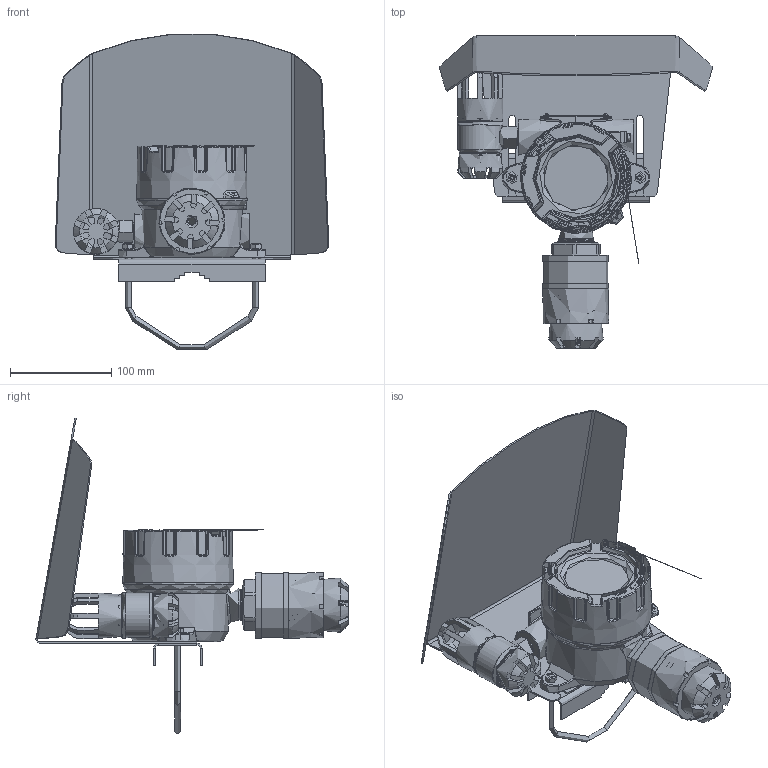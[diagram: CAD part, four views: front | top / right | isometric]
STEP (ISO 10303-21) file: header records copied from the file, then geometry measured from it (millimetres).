
FILE_DESCRIPTION(('STEP AP214'), '1');
FILE_NAME('ÄÃÑ Ýðèñ-210_Êîðïóñ', '', ('UNSPECIFIED'), ('UNSPECIFIED'), 'ASCON STEP Converter 1.3', 'ASCON Math Kernel', '');
FILE_SCHEMA(('AUTOMOTIVE_DESIGN { 1 0 10303 214 3 1 1}'));
Length unit declared in the file: millimetre
Products named in the file (28): korpus XD-I-obrobka - KU12-15; USZCZELKA XD-I ; podklladka PTN-1,5; podkl. M4; wkret PTN-1,5; podkladka. ET4; podkl. M5; wkret ETN-4; L4357- Pokrywa XD-ILwin - obrobka - napis w j.rosyjskim - ku13-16; L1652.1; L2239-piersc W95x3.; wkrêt blok M3; 橾迕.413216.210.06.01-06; jin75D2nz67; 橾迕.413216.007.01; 橾迕.413216.022.01; 橾迕.413216.022.02; 橾迕.413216.210.12; 橾迕.413216.020 捘; 橾迕.413216.001.10.01-01; Êðûøêà; 扻豵鵨4; Êîëïà÷åê àëþìèíèåâûé
Assembly tree (29 placements, depth 3):
  (unnamed)
    (unnamed)
      korpus XD-I-obrobka - KU12-15
      USZCZELKA XD-I 
      podklladka PTN-1,5
      podkl. M4
      wkret PTN-1,5
      podkladka. ET4
      podkl. M5
      wkret ETN-4
    (unnamed)
      L4357- Pokrywa XD-ILwin - obrobka - napis w j.rosyjskim - ku13-16
      L1652.1
      L2239-piersc W95x3.
      wkrêt blok M3
    橾迕.413216.210.06.01-06
    jin75D2nz67
    橾迕.413216.007.01
    橾迕.413216.022.01
    橾迕.413216.022.02
    (unnamed)  x2
    橾迕.413216.210.12
    (unnamed)  x2
    橾迕.413216.020 捘
      橾迕.413216.001.10.01-01
      Êðûøêà
      扻豵鵨4
      Êîëïà÷åê àëþìèíèåâûé
Bounding box: 270.61 x 308.85 x 312.33 mm (x, y, z)
Volume: 455418.1 mm3; surface area: 463933.8 mm2
Topology: 24 solids, 26 shells, 4629 faces, 12698 edges, 8136 vertices
Faces by surface type: plane 2186, extrusion 1417, cylinder 348, bspline 308, cone 174, torus 126, sphere 70
Full cylindrical faces by diameter (mm): 0.75 x12, 2 x7, 2.459 x11, 2.5 x2, 2.6 x1, 2.8 x1, 3 x1, 3.242 x1, 3.5 x2, 3.6 x3, 3.9 x1, 4 x1, 4.1 x1, 4.134 x1, 4.5 x1, 4.9 x1, 4.917 x2, 5 x1, 5.1 x1, 6 x5, 7 x1, 7.28 x1, 7.95 x8, 8.28 x1, 8.4 x1, 10 x1, 10.106 x1, 15 x1, 16 x2, 17 x1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
Entity records: 213366 total; most frequent: CARTESIAN_POINT 69357, ORIENTED_EDGE 23844, DIRECTION 16469, EDGE_CURVE 11922, VECTOR 8051, VERTEX_POINT 7934, LINE 6634, B_SPLINE_CURVE_WITH_KNOTS 5408
